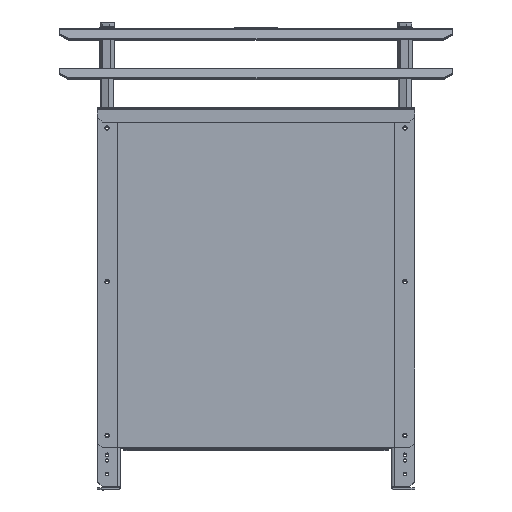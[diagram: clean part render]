
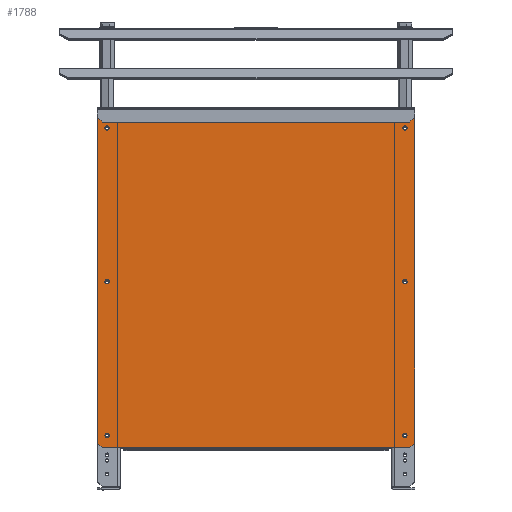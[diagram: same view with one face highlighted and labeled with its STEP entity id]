
A CAD part, top view. The second image highlights one B-rep face of the part: STEP entity #1788.
In plain terms, the highlighted planar face has unit normal (0, 0, 1).
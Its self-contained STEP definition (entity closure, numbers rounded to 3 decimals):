
#1788=ADVANCED_FACE('NONE',(#6452,#6453,#6454,#6455,#6456,#6457,#6458),#6459,.T.);
#6452=FACE_OUTER_BOUND('',#11909,.T.);
#6453=FACE_BOUND('',#11910,.T.);
#6454=FACE_BOUND('',#11911,.T.);
#6455=FACE_BOUND('',#11912,.T.);
#6456=FACE_BOUND('',#11913,.T.);
#6457=FACE_BOUND('',#11914,.T.);
#6458=FACE_BOUND('',#11915,.T.);
#6459=PLANE('',#11916);
#11909=EDGE_LOOP('',(#32517,#32518,#32519,#32520,#32521,#32522,#32523,#32524,#32525,#32526,#32527,#32528));
#11910=EDGE_LOOP('',(#32529,#32530));
#11911=EDGE_LOOP('',(#32531,#32532));
#11912=EDGE_LOOP('',(#32533,#32534));
#11913=EDGE_LOOP('',(#32535,#32536));
#11914=EDGE_LOOP('',(#32537,#32538));
#11915=EDGE_LOOP('',(#32539,#32540));
#11916=AXIS2_PLACEMENT_3D('',#32541,#32542,#32543);
#32517=ORIENTED_EDGE('',*,*,#42333,.F.);
#32518=ORIENTED_EDGE('',*,*,#42328,.F.);
#32519=ORIENTED_EDGE('',*,*,#42332,.F.);
#32520=ORIENTED_EDGE('',*,*,#41367,.F.);
#32521=ORIENTED_EDGE('',*,*,#41370,.F.);
#32522=ORIENTED_EDGE('',*,*,#41358,.F.);
#32523=ORIENTED_EDGE('',*,*,#42334,.T.);
#32524=ORIENTED_EDGE('',*,*,#42335,.F.);
#32525=ORIENTED_EDGE('',*,*,#42314,.F.);
#32526=ORIENTED_EDGE('',*,*,#42318,.F.);
#32527=ORIENTED_EDGE('',*,*,#42321,.F.);
#32528=ORIENTED_EDGE('',*,*,#42324,.F.);
#32529=ORIENTED_EDGE('',*,*,#39453,.F.);
#32530=ORIENTED_EDGE('',*,*,#39828,.F.);
#32531=ORIENTED_EDGE('',*,*,#39449,.F.);
#32532=ORIENTED_EDGE('',*,*,#39830,.F.);
#32533=ORIENTED_EDGE('',*,*,#39445,.F.);
#32534=ORIENTED_EDGE('',*,*,#39832,.F.);
#32535=ORIENTED_EDGE('',*,*,#39441,.F.);
#32536=ORIENTED_EDGE('',*,*,#39834,.F.);
#32537=ORIENTED_EDGE('',*,*,#39437,.F.);
#32538=ORIENTED_EDGE('',*,*,#39836,.F.);
#32539=ORIENTED_EDGE('',*,*,#39433,.F.);
#32540=ORIENTED_EDGE('',*,*,#39838,.F.);
#32541=CARTESIAN_POINT('',(24.409,64.8,4.1));
#32542=DIRECTION('',(0.,0.,1.0));
#32543=DIRECTION('',(1.0,0.,0.0));
#39433=EDGE_CURVE('NONE',#47820,#47823,#47824,.T.);
#39437=EDGE_CURVE('NONE',#47828,#47831,#47832,.T.);
#39441=EDGE_CURVE('NONE',#47836,#47839,#47840,.T.);
#39445=EDGE_CURVE('NONE',#47844,#47847,#47848,.T.);
#39449=EDGE_CURVE('NONE',#47852,#47855,#47856,.T.);
#39453=EDGE_CURVE('NONE',#47860,#47863,#47864,.T.);
#39828=EDGE_CURVE('NONE',#47863,#47860,#48496,.T.);
#39830=EDGE_CURVE('NONE',#47855,#47852,#48498,.T.);
#39832=EDGE_CURVE('NONE',#47847,#47844,#48500,.T.);
#39834=EDGE_CURVE('NONE',#47839,#47836,#48502,.T.);
#39836=EDGE_CURVE('NONE',#47831,#47828,#48504,.T.);
#39838=EDGE_CURVE('NONE',#47823,#47820,#48506,.T.);
#41358=EDGE_CURVE('NONE',#50914,#50916,#50917,.T.);
#41367=EDGE_CURVE('NONE',#50929,#50931,#50932,.T.);
#41370=EDGE_CURVE('NONE',#50916,#50929,#50935,.T.);
#42314=EDGE_CURVE('NONE',#52427,#52428,#52429,.T.);
#42318=EDGE_CURVE('NONE',#52435,#52427,#52436,.T.);
#42321=EDGE_CURVE('NONE',#52440,#52435,#52441,.T.);
#42324=EDGE_CURVE('NONE',#52445,#52440,#52446,.T.);
#42328=EDGE_CURVE('NONE',#52452,#52453,#52454,.T.);
#42332=EDGE_CURVE('NONE',#50931,#52452,#52459,.T.);
#42333=EDGE_CURVE('NONE',#52453,#52445,#52460,.T.);
#42334=EDGE_CURVE('NONE',#50914,#52406,#52461,.T.);
#42335=EDGE_CURVE('NONE',#52428,#52406,#52462,.T.);
#47820=VERTEX_POINT('NONE',#60353);
#47823=VERTEX_POINT('',#60357);
#47824=CIRCLE('',#60358,2.25);
#47828=VERTEX_POINT('NONE',#60363);
#47831=VERTEX_POINT('',#60367);
#47832=CIRCLE('',#60368,2.25);
#47836=VERTEX_POINT('NONE',#60373);
#47839=VERTEX_POINT('',#60377);
#47840=CIRCLE('',#60378,2.25);
#47844=VERTEX_POINT('NONE',#60383);
#47847=VERTEX_POINT('',#60387);
#47848=CIRCLE('',#60388,2.25);
#47852=VERTEX_POINT('NONE',#60393);
#47855=VERTEX_POINT('',#60397);
#47856=CIRCLE('',#60398,2.25);
#47860=VERTEX_POINT('NONE',#60403);
#47863=VERTEX_POINT('',#60407);
#47864=CIRCLE('',#60408,2.25);
#48496=CIRCLE('',#61170,2.25);
#48498=CIRCLE('',#61172,2.25);
#48500=CIRCLE('',#61174,2.25);
#48502=CIRCLE('',#61176,2.25);
#48504=CIRCLE('',#61178,2.25);
#48506=CIRCLE('',#61180,2.25);
#50914=VERTEX_POINT('NONE',#64810);
#50916=VERTEX_POINT('NONE',#64813);
#50917=LINE('',#64814,#64815);
#50929=VERTEX_POINT('NONE',#64833);
#50931=VERTEX_POINT('NONE',#64836);
#50932=LINE('',#64837,#64838);
#50935=LINE('',#64843,#64844);
#52406=VERTEX_POINT('NONE',#68105);
#52427=VERTEX_POINT('NONE',#68139);
#52428=VERTEX_POINT('NONE',#68140);
#52429=LINE('',#68141,#68142);
#52435=VERTEX_POINT('NONE',#68151);
#52436=LINE('',#68152,#68153);
#52440=VERTEX_POINT('NONE',#68159);
#52441=LINE('',#68160,#68161);
#52445=VERTEX_POINT('NONE',#68167);
#52446=LINE('',#68168,#68169);
#52452=VERTEX_POINT('NONE',#68178);
#52453=VERTEX_POINT('NONE',#68179);
#52454=LINE('',#68180,#68181);
#52459=LINE('',#68189,#68190);
#52460=LINE('',#68191,#68192);
#52461=LINE('',#68193,#68194);
#52462=LINE('',#68195,#68196);
#60353=CARTESIAN_POINT('',(16.659,77.8,4.1));
#60357=CARTESIAN_POINT('',(12.159,77.8,4.1));
#60358=AXIS2_PLACEMENT_3D('',#79083,#79084,#79085);
#60363=CARTESIAN_POINT('',(16.659,237.8,4.1));
#60367=CARTESIAN_POINT('',(12.159,237.8,4.1));
#60368=AXIS2_PLACEMENT_3D('',#79091,#79092,#79093);
#60373=CARTESIAN_POINT('',(16.659,397.8,4.1));
#60377=CARTESIAN_POINT('',(12.159,397.8,4.1));
#60378=AXIS2_PLACEMENT_3D('',#79099,#79100,#79101);
#60383=CARTESIAN_POINT('',(-293.341,77.8,4.1));
#60387=CARTESIAN_POINT('',(-297.841,77.8,4.1));
#60388=AXIS2_PLACEMENT_3D('',#79107,#79108,#79109);
#60393=CARTESIAN_POINT('',(-293.341,237.8,4.1));
#60397=CARTESIAN_POINT('',(-297.841,237.8,4.1));
#60398=AXIS2_PLACEMENT_3D('',#79115,#79116,#79117);
#60403=CARTESIAN_POINT('',(-293.341,397.8,4.1));
#60407=CARTESIAN_POINT('',(-297.841,397.8,4.1));
#60408=AXIS2_PLACEMENT_3D('',#79123,#79124,#79125);
#61170=AXIS2_PLACEMENT_3D('',#79988,#79989,#79990);
#61172=AXIS2_PLACEMENT_3D('',#79994,#79995,#79996);
#61174=AXIS2_PLACEMENT_3D('',#80000,#80001,#80002);
#61176=AXIS2_PLACEMENT_3D('',#80006,#80007,#80008);
#61178=AXIS2_PLACEMENT_3D('',#80012,#80013,#80014);
#61180=AXIS2_PLACEMENT_3D('',#80018,#80019,#80020);
#64810=CARTESIAN_POINT('',(-2.591,413.8,4.1));
#64813=CARTESIAN_POINT('',(19.409,413.8,4.1));
#64814=CARTESIAN_POINT('',(-2.591,413.8,4.1));
#64815=VECTOR('',#82132,1000.0);
#64833=CARTESIAN_POINT('',(24.409,408.8,4.1));
#64836=CARTESIAN_POINT('',(24.409,69.8,4.1));
#64837=CARTESIAN_POINT('',(24.409,69.8,4.1));
#64838=VECTOR('',#82143,1000.0);
#64843=CARTESIAN_POINT('',(19.409,413.8,4.1));
#64844=VECTOR('',#82146,1000.0);
#68105=CARTESIAN_POINT('',(-278.591,413.8,4.1));
#68139=CARTESIAN_POINT('',(-305.591,408.8,4.1));
#68140=CARTESIAN_POINT('',(-300.591,413.8,4.1));
#68141=CARTESIAN_POINT('',(-300.591,413.8,4.1));
#68142=VECTOR('',#83258,1000.0);
#68151=CARTESIAN_POINT('',(-305.591,69.8,4.1));
#68152=CARTESIAN_POINT('',(-305.591,69.8,4.1));
#68153=VECTOR('',#83262,1000.0);
#68159=CARTESIAN_POINT('',(-300.591,64.8,4.1));
#68160=CARTESIAN_POINT('',(-300.591,64.8,4.1));
#68161=VECTOR('',#83265,1000.0);
#68167=CARTESIAN_POINT('',(-278.591,64.8,4.1));
#68168=CARTESIAN_POINT('',(-278.591,64.8,4.1));
#68169=VECTOR('',#83268,1000.0);
#68178=CARTESIAN_POINT('',(19.409,64.8,4.1));
#68179=CARTESIAN_POINT('',(-2.591,64.8,4.1));
#68180=CARTESIAN_POINT('',(-2.591,64.8,4.1));
#68181=VECTOR('',#83272,1000.0);
#68189=CARTESIAN_POINT('',(19.409,64.8,4.1));
#68190=VECTOR('',#83276,1000.0);
#68191=CARTESIAN_POINT('',(24.409,64.8,4.1));
#68192=VECTOR('',#83277,1000.0);
#68193=CARTESIAN_POINT('',(24.409,413.8,4.1));
#68194=VECTOR('',#83278,1000.0);
#68195=CARTESIAN_POINT('',(-278.591,413.8,4.1));
#68196=VECTOR('',#83279,1000.0);
#79083=CARTESIAN_POINT('',(14.409,77.8,4.1));
#79084=DIRECTION('',(-0.0,0.,1.0));
#79085=DIRECTION('',(1.0,0.0,0.0));
#79091=CARTESIAN_POINT('',(14.409,237.8,4.1));
#79092=DIRECTION('',(-0.0,0.,1.0));
#79093=DIRECTION('',(1.0,0.0,0.0));
#79099=CARTESIAN_POINT('',(14.409,397.8,4.1));
#79100=DIRECTION('',(-0.0,0.,1.0));
#79101=DIRECTION('',(1.0,0.0,0.0));
#79107=CARTESIAN_POINT('',(-295.591,77.8,4.1));
#79108=DIRECTION('',(-0.0,0.,1.0));
#79109=DIRECTION('',(1.0,0.0,0.0));
#79115=CARTESIAN_POINT('',(-295.591,237.8,4.1));
#79116=DIRECTION('',(-0.0,0.,1.0));
#79117=DIRECTION('',(1.0,0.0,0.0));
#79123=CARTESIAN_POINT('',(-295.591,397.8,4.1));
#79124=DIRECTION('',(-0.0,0.,1.0));
#79125=DIRECTION('',(1.0,0.0,0.0));
#79988=CARTESIAN_POINT('',(-295.591,397.8,4.1));
#79989=DIRECTION('',(-0.0,0.,1.0));
#79990=DIRECTION('',(1.0,0.0,0.0));
#79994=CARTESIAN_POINT('',(-295.591,237.8,4.1));
#79995=DIRECTION('',(-0.0,0.,1.0));
#79996=DIRECTION('',(1.0,0.0,0.0));
#80000=CARTESIAN_POINT('',(-295.591,77.8,4.1));
#80001=DIRECTION('',(-0.0,0.,1.0));
#80002=DIRECTION('',(1.0,0.0,0.0));
#80006=CARTESIAN_POINT('',(14.409,397.8,4.1));
#80007=DIRECTION('',(-0.0,0.,1.0));
#80008=DIRECTION('',(1.0,0.0,0.0));
#80012=CARTESIAN_POINT('',(14.409,237.8,4.1));
#80013=DIRECTION('',(-0.0,0.,1.0));
#80014=DIRECTION('',(1.0,0.0,0.0));
#80018=CARTESIAN_POINT('',(14.409,77.8,4.1));
#80019=DIRECTION('',(-0.0,0.,1.0));
#80020=DIRECTION('',(1.0,0.0,0.0));
#82132=DIRECTION('',(1.0,0.,0.));
#82143=DIRECTION('',(0.,-1.0,0.));
#82146=DIRECTION('',(0.707,-0.707,0.));
#83258=DIRECTION('',(0.707,0.707,0.));
#83262=DIRECTION('',(0.,1.0,0.));
#83265=DIRECTION('',(-0.707,0.707,0.));
#83268=DIRECTION('',(-1.0,0.,0.));
#83272=DIRECTION('',(-1.0,0.,0.));
#83276=DIRECTION('',(-0.707,-0.707,0.));
#83277=DIRECTION('',(-1.0,0.,0.));
#83278=DIRECTION('',(-1.0,0.,0.));
#83279=DIRECTION('',(1.0,0.,0.));
